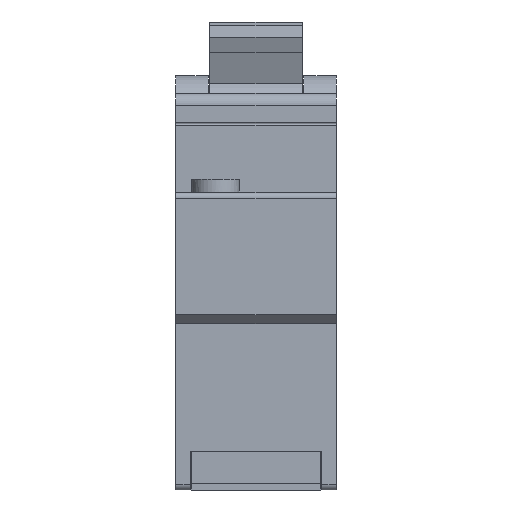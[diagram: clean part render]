
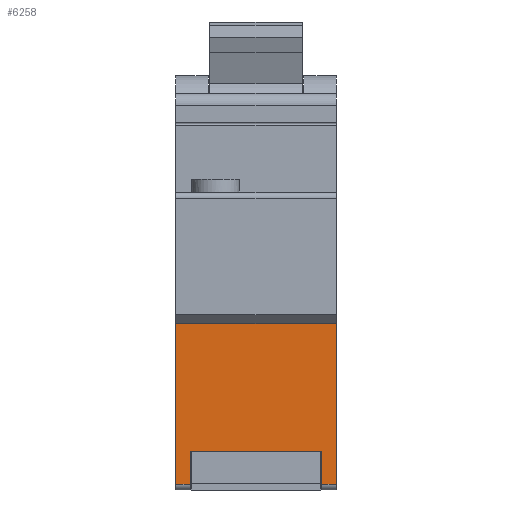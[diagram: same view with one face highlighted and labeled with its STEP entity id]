
A CAD part, front view. The second image highlights one B-rep face of the part: STEP entity #6258.
In plain terms, the highlighted planar face has unit normal (0, -1, 0).
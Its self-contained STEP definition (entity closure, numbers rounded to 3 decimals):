
#265=LINE('',#8740,#916);
#274=LINE('',#8778,#925);
#279=LINE('',#8791,#930);
#284=LINE('',#8802,#935);
#285=LINE('',#8803,#936);
#286=LINE('',#8805,#937);
#287=LINE('',#8807,#938);
#288=LINE('',#8808,#939);
#916=VECTOR('',#7190,10.);
#925=VECTOR('',#7223,10.);
#930=VECTOR('',#7232,10.);
#935=VECTOR('',#7241,10.);
#936=VECTOR('',#7242,10.);
#937=VECTOR('',#7243,10.);
#938=VECTOR('',#7244,10.);
#939=VECTOR('',#7245,10.);
#1544=PLANE('',#6676);
#1854=FACE_OUTER_BOUND('',#2231,.T.);
#2231=EDGE_LOOP('',(#4435,#4436,#4437,#4438,#4439,#4440,#4441,#4442));
#2836=VERTEX_POINT('',#8737);
#2837=VERTEX_POINT('',#8739);
#2853=VERTEX_POINT('',#8776);
#2854=VERTEX_POINT('',#8777);
#2859=VERTEX_POINT('',#8789);
#2860=VERTEX_POINT('',#8790);
#2865=VERTEX_POINT('',#8804);
#2866=VERTEX_POINT('',#8806);
#3467=EDGE_CURVE('',#2836,#2837,#265,.T.);
#3484=EDGE_CURVE('',#2853,#2854,#274,.T.);
#3490=EDGE_CURVE('',#2859,#2860,#279,.T.);
#3496=EDGE_CURVE('',#2860,#2853,#284,.T.);
#3497=EDGE_CURVE('',#2854,#2837,#285,.T.);
#3498=EDGE_CURVE('',#2865,#2836,#286,.T.);
#3499=EDGE_CURVE('',#2865,#2866,#287,.T.);
#3500=EDGE_CURVE('',#2866,#2859,#288,.T.);
#4435=ORIENTED_EDGE('',*,*,#3490,.T.);
#4436=ORIENTED_EDGE('',*,*,#3496,.T.);
#4437=ORIENTED_EDGE('',*,*,#3484,.T.);
#4438=ORIENTED_EDGE('',*,*,#3497,.T.);
#4439=ORIENTED_EDGE('',*,*,#3467,.F.);
#4440=ORIENTED_EDGE('',*,*,#3498,.F.);
#4441=ORIENTED_EDGE('',*,*,#3499,.T.);
#4442=ORIENTED_EDGE('',*,*,#3500,.T.);
#6258=ADVANCED_FACE('',(#1854),#1544,.T.);
#6676=AXIS2_PLACEMENT_3D('',#8801,#7239,#7240);
#7190=DIRECTION('',(0.,0.,-1.));
#7223=DIRECTION('',(0.,0.,-1.));
#7232=DIRECTION('',(0.,0.,1.));
#7239=DIRECTION('center_axis',(0.,-1.,0.));
#7240=DIRECTION('ref_axis',(0.,0.,-1.));
#7241=DIRECTION('',(1.,0.,0.));
#7242=DIRECTION('',(1.,0.,0.));
#7243=DIRECTION('',(1.,0.,0.));
#7244=DIRECTION('',(0.,0.,-1.));
#7245=DIRECTION('',(1.,0.,0.));
#8737=CARTESIAN_POINT('',(27.,-24.356,-37.778));
#8739=CARTESIAN_POINT('',(27.,-24.356,-64.693));
#8740=CARTESIAN_POINT('',(27.,-24.356,-37.778));
#8776=CARTESIAN_POINT('',(24.5,-24.356,-59.196));
#8777=CARTESIAN_POINT('',(24.5,-24.356,-64.693));
#8778=CARTESIAN_POINT('',(24.5,-24.356,-50.008));
#8789=CARTESIAN_POINT('',(2.5,-24.356,-64.693));
#8790=CARTESIAN_POINT('',(2.5,-24.356,-59.196));
#8791=CARTESIAN_POINT('',(2.5,-24.356,-50.008));
#8801=CARTESIAN_POINT('Origin',(0.,-24.356,-37.778));
#8802=CARTESIAN_POINT('',(6.75,-24.356,-59.196));
#8803=CARTESIAN_POINT('',(0.,-24.356,-64.693));
#8804=CARTESIAN_POINT('',(0.,-24.356,-37.778));
#8805=CARTESIAN_POINT('',(0.,-24.356,-37.778));
#8806=CARTESIAN_POINT('',(0.,-24.356,-64.693));
#8807=CARTESIAN_POINT('',(0.,-24.356,-37.778));
#8808=CARTESIAN_POINT('',(0.,-24.356,-64.693));
